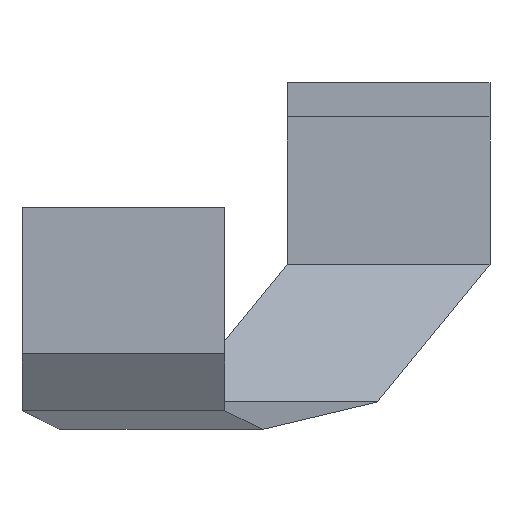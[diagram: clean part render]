
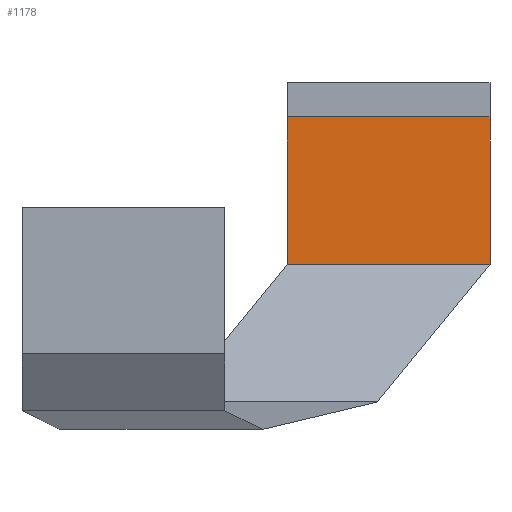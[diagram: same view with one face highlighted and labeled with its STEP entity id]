
A CAD part, front view. The second image highlights one B-rep face of the part: STEP entity #1178.
In plain terms, the highlighted planar face has unit normal (0, 1, 0).
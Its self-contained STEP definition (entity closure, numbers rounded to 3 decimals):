
#797 = B_SPLINE_SURFACE_WITH_KNOTS('',1,1,(
    (#798,#799)
    ,(#800,#801
  )),.UNSPECIFIED.,.F.,.F.,.F.,(2,2),(2,2),(0.,5.9),(0.,1.),
  .PIECEWISE_BEZIER_KNOTS.);
#798 = CARTESIAN_POINT('',(1.5,8.185,-18.3));
#799 = CARTESIAN_POINT('',(4.775,10.725,-14.3));
#800 = CARTESIAN_POINT('',(7.4,8.185,-18.3));
#801 = CARTESIAN_POINT('',(10.675,10.725,-14.3));
#972 = VERTEX_POINT('',#973);
#973 = CARTESIAN_POINT('',(10.675,10.725,-14.3));
#993 = EDGE_CURVE('',#994,#972,#996,.T.);
#994 = VERTEX_POINT('',#995);
#995 = CARTESIAN_POINT('',(4.775,10.725,-14.3));
#996 = SURFACE_CURVE('',#997,(#1001,#1008),.PCURVE_S1.);
#997 = LINE('',#998,#999);
#998 = CARTESIAN_POINT('',(4.775,10.725,-14.3));
#999 = VECTOR('',#1000,1.);
#1000 = DIRECTION('',(1.,0.,0.));
#1001 = PCURVE('',#797,#1002);
#1002 = DEFINITIONAL_REPRESENTATION('',(#1003),#1007);
#1003 = LINE('',#1004,#1005);
#1004 = CARTESIAN_POINT('',(0.,1.));
#1005 = VECTOR('',#1006,1.);
#1006 = DIRECTION('',(1.,0.));
#1007 = ( GEOMETRIC_REPRESENTATION_CONTEXT(2) 
PARAMETRIC_REPRESENTATION_CONTEXT() REPRESENTATION_CONTEXT('2D SPACE',''
  ) );
#1008 = PCURVE('',#1009,#1014);
#1009 = PLANE('',#1010);
#1010 = AXIS2_PLACEMENT_3D('',#1011,#1012,#1013);
#1011 = CARTESIAN_POINT('',(4.775,10.725,-10.));
#1012 = DIRECTION('',(0.,-1.,0.));
#1013 = DIRECTION('',(1.,0.,0.));
#1014 = DEFINITIONAL_REPRESENTATION('',(#1015),#1019);
#1015 = LINE('',#1016,#1017);
#1016 = CARTESIAN_POINT('',(0.,-4.3));
#1017 = VECTOR('',#1018,1.);
#1018 = DIRECTION('',(1.,0.));
#1019 = ( GEOMETRIC_REPRESENTATION_CONTEXT(2) 
PARAMETRIC_REPRESENTATION_CONTEXT() REPRESENTATION_CONTEXT('2D SPACE',''
  ) );
#1081 = PLANE('',#1082);
#1082 = AXIS2_PLACEMENT_3D('',#1083,#1084,#1085);
#1083 = CARTESIAN_POINT('',(10.675,10.725,-10.));
#1084 = DIRECTION('',(1.,0.,0.));
#1085 = DIRECTION('',(-0.,1.,0.));
#1166 = PLANE('',#1167);
#1167 = AXIS2_PLACEMENT_3D('',#1168,#1169,#1170);
#1168 = CARTESIAN_POINT('',(4.775,10.955,-10.));
#1169 = DIRECTION('',(-1.,0.,0.));
#1170 = DIRECTION('',(0.,-1.,0.));
#1178 = ADVANCED_FACE('',(#1179),#1009,.F.);
#1179 = FACE_BOUND('',#1180,.F.);
#1180 = EDGE_LOOP('',(#1181,#1182,#1202,#1230));
#1181 = ORIENTED_EDGE('',*,*,#993,.T.);
#1182 = ORIENTED_EDGE('',*,*,#1183,.T.);
#1183 = EDGE_CURVE('',#972,#1184,#1186,.T.);
#1184 = VERTEX_POINT('',#1185);
#1185 = CARTESIAN_POINT('',(10.675,10.725,-10.));
#1186 = SURFACE_CURVE('',#1187,(#1190,#1196),.PCURVE_S1.);
#1187 = B_SPLINE_CURVE_WITH_KNOTS('',1,(#1188,#1189),.UNSPECIFIED.,.F.,
  .F.,(2,2),(0.,1.),.PIECEWISE_BEZIER_KNOTS.);
#1188 = CARTESIAN_POINT('',(10.675,10.725,-14.3));
#1189 = CARTESIAN_POINT('',(10.675,10.725,-10.));
#1190 = PCURVE('',#1009,#1191);
#1191 = DEFINITIONAL_REPRESENTATION('',(#1192),#1195);
#1192 = B_SPLINE_CURVE_WITH_KNOTS('',1,(#1193,#1194),.UNSPECIFIED.,.F.,
  .F.,(2,2),(0.,1.),.PIECEWISE_BEZIER_KNOTS.);
#1193 = CARTESIAN_POINT('',(5.9,-4.3));
#1194 = CARTESIAN_POINT('',(5.9,0.));
#1195 = ( GEOMETRIC_REPRESENTATION_CONTEXT(2) 
PARAMETRIC_REPRESENTATION_CONTEXT() REPRESENTATION_CONTEXT('2D SPACE',''
  ) );
#1196 = PCURVE('',#1081,#1197);
#1197 = DEFINITIONAL_REPRESENTATION('',(#1198),#1201);
#1198 = B_SPLINE_CURVE_WITH_KNOTS('',1,(#1199,#1200),.UNSPECIFIED.,.F.,
  .F.,(2,2),(0.,1.),.PIECEWISE_BEZIER_KNOTS.);
#1199 = CARTESIAN_POINT('',(0.,-4.3));
#1200 = CARTESIAN_POINT('',(0.,0.));
#1201 = ( GEOMETRIC_REPRESENTATION_CONTEXT(2) 
PARAMETRIC_REPRESENTATION_CONTEXT() REPRESENTATION_CONTEXT('2D SPACE',''
  ) );
#1202 = ORIENTED_EDGE('',*,*,#1203,.F.);
#1203 = EDGE_CURVE('',#1204,#1184,#1206,.T.);
#1204 = VERTEX_POINT('',#1205);
#1205 = CARTESIAN_POINT('',(4.775,10.725,-10.));
#1206 = SURFACE_CURVE('',#1207,(#1211,#1218),.PCURVE_S1.);
#1207 = LINE('',#1208,#1209);
#1208 = CARTESIAN_POINT('',(4.775,10.725,-10.));
#1209 = VECTOR('',#1210,1.);
#1210 = DIRECTION('',(1.,0.,0.));
#1211 = PCURVE('',#1009,#1212);
#1212 = DEFINITIONAL_REPRESENTATION('',(#1213),#1217);
#1213 = LINE('',#1214,#1215);
#1214 = CARTESIAN_POINT('',(0.,0.));
#1215 = VECTOR('',#1216,1.);
#1216 = DIRECTION('',(1.,0.));
#1217 = ( GEOMETRIC_REPRESENTATION_CONTEXT(2) 
PARAMETRIC_REPRESENTATION_CONTEXT() REPRESENTATION_CONTEXT('2D SPACE',''
  ) );
#1218 = PCURVE('',#1219,#1224);
#1219 = PLANE('',#1220);
#1220 = AXIS2_PLACEMENT_3D('',#1221,#1222,#1223);
#1221 = CARTESIAN_POINT('',(4.775,10.725,-9.));
#1222 = DIRECTION('',(0.,-1.,0.));
#1223 = DIRECTION('',(1.,0.,0.));
#1224 = DEFINITIONAL_REPRESENTATION('',(#1225),#1229);
#1225 = LINE('',#1226,#1227);
#1226 = CARTESIAN_POINT('',(0.,-1.));
#1227 = VECTOR('',#1228,1.);
#1228 = DIRECTION('',(1.,0.));
#1229 = ( GEOMETRIC_REPRESENTATION_CONTEXT(2) 
PARAMETRIC_REPRESENTATION_CONTEXT() REPRESENTATION_CONTEXT('2D SPACE',''
  ) );
#1230 = ORIENTED_EDGE('',*,*,#1231,.F.);
#1231 = EDGE_CURVE('',#994,#1204,#1232,.T.);
#1232 = SURFACE_CURVE('',#1233,(#1236,#1242),.PCURVE_S1.);
#1233 = B_SPLINE_CURVE_WITH_KNOTS('',1,(#1234,#1235),.UNSPECIFIED.,.F.,
  .F.,(2,2),(0.,1.),.PIECEWISE_BEZIER_KNOTS.);
#1234 = CARTESIAN_POINT('',(4.775,10.725,-14.3));
#1235 = CARTESIAN_POINT('',(4.775,10.725,-10.));
#1236 = PCURVE('',#1009,#1237);
#1237 = DEFINITIONAL_REPRESENTATION('',(#1238),#1241);
#1238 = B_SPLINE_CURVE_WITH_KNOTS('',1,(#1239,#1240),.UNSPECIFIED.,.F.,
  .F.,(2,2),(0.,1.),.PIECEWISE_BEZIER_KNOTS.);
#1239 = CARTESIAN_POINT('',(0.,-4.3));
#1240 = CARTESIAN_POINT('',(0.,0.));
#1241 = ( GEOMETRIC_REPRESENTATION_CONTEXT(2) 
PARAMETRIC_REPRESENTATION_CONTEXT() REPRESENTATION_CONTEXT('2D SPACE',''
  ) );
#1242 = PCURVE('',#1166,#1243);
#1243 = DEFINITIONAL_REPRESENTATION('',(#1244),#1247);
#1244 = B_SPLINE_CURVE_WITH_KNOTS('',1,(#1245,#1246),.UNSPECIFIED.,.F.,
  .F.,(2,2),(0.,1.),.PIECEWISE_BEZIER_KNOTS.);
#1245 = CARTESIAN_POINT('',(0.23,-4.3));
#1246 = CARTESIAN_POINT('',(0.23,0.));
#1247 = ( GEOMETRIC_REPRESENTATION_CONTEXT(2) 
PARAMETRIC_REPRESENTATION_CONTEXT() REPRESENTATION_CONTEXT('2D SPACE',''
  ) );
